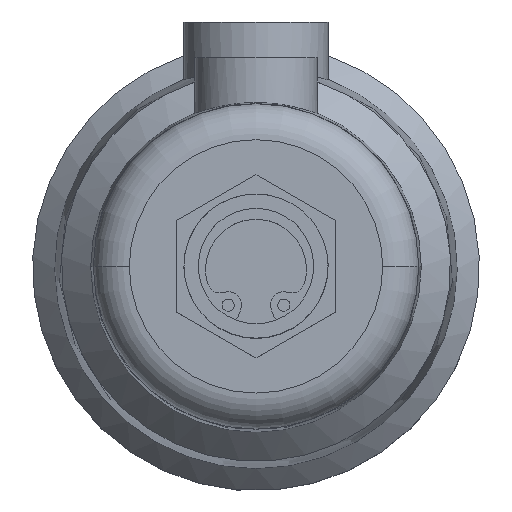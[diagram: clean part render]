
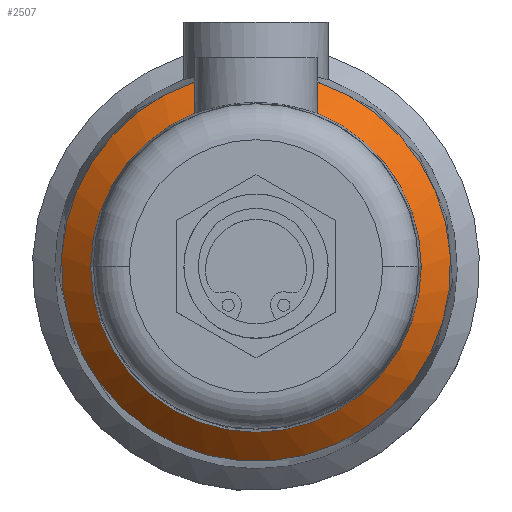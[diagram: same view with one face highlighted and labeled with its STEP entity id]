
A CAD part, top view. The second image highlights one B-rep face of the part: STEP entity #2507.
In plain terms, the highlighted conical face has half-angle 45 degrees and reference radius 24.967 mm.
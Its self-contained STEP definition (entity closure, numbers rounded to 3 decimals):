
#130=CARTESIAN_POINT('',(-8.5,25.627,114.5));
#132=CARTESIAN_POINT('',(8.5,25.627,114.5));
#198=CARTESIAN_POINT('',(8.5,21.301,118.566));
#204=CARTESIAN_POINT('',(0.,0.,118.566));
#205=DIRECTION('',(0.,0.,-1.));
#206=DIRECTION('',(0.371,0.929,0.));
#207=AXIS2_PLACEMENT_3D('',#204,#205,#206);
#214=CARTESIAN_POINT('',(0.,0.,118.566));
#215=DIRECTION('',(0.,0.,-1.));
#216=DIRECTION('',(-1.,0.,0.));
#217=AXIS2_PLACEMENT_3D('',#214,#215,#216);
#223=CARTESIAN_POINT('',(-8.5,21.301,118.566));
#225=CARTESIAN_POINT('',(0.,0.,114.5));
#226=DIRECTION('',(0.,0.,-1.));
#227=DIRECTION('',(0.315,0.949,0.));
#228=AXIS2_PLACEMENT_3D('',#225,#226,#227);
#230=CARTESIAN_POINT('',(-8.5,25.627,114.5));
#231=CARTESIAN_POINT('',(-8.5,25.127,114.975));
#232=CARTESIAN_POINT('',(-8.5,24.139,115.91));
#233=CARTESIAN_POINT('',(-8.5,22.697,117.265));
#234=CARTESIAN_POINT('',(-8.5,21.762,118.137));
#235=CARTESIAN_POINT('',(-8.5,21.301,118.566));
#237=CARTESIAN_POINT('',(8.5,21.301,118.566));
#238=CARTESIAN_POINT('',(8.5,21.761,118.138));
#239=CARTESIAN_POINT('',(8.5,22.695,117.267));
#240=CARTESIAN_POINT('',(8.5,24.137,115.911));
#241=CARTESIAN_POINT('',(8.5,25.126,114.976));
#242=CARTESIAN_POINT('',(8.5,25.627,114.5));
#244=CARTESIAN_POINT('',(0.,0.,118.566));
#245=DIRECTION('',(0.,0.,-1.));
#246=DIRECTION('',(1.,0.,0.));
#247=AXIS2_PLACEMENT_3D('',#244,#245,#246);
#2042=CARTESIAN_POINT('',(22.934,0.,118.566));
#2043=CARTESIAN_POINT('',(-22.934,0.,118.566));
#2044=VERTEX_POINT('',#2042);
#2045=VERTEX_POINT('',#2043);
#2164=VERTEX_POINT('',#132);
#2167=VERTEX_POINT('',#130);
#2170=VERTEX_POINT('',#198);
#2171=VERTEX_POINT('',#223);
#2493=CARTESIAN_POINT('',(0.,0.,116.533));
#2494=DIRECTION('',(0.,0.,-1.));
#2495=DIRECTION('',(1.,0.,0.));
#2496=AXIS2_PLACEMENT_3D('',#2493,#2494,#2495);
#2497=CONICAL_SURFACE('',#2496,24.967,45.);
#2498=ORIENTED_EDGE('',*,*,#2422,.T.);
#2499=ORIENTED_EDGE('',*,*,#2454,.T.);
#2500=ORIENTED_EDGE('',*,*,#2487,.F.);
#2502=ORIENTED_EDGE('',*,*,#2501,.F.);
#2503=ORIENTED_EDGE('',*,*,#2479,.F.);
#2504=ORIENTED_EDGE('',*,*,#2400,.T.);
#2505=EDGE_LOOP('',(#2498,#2499,#2500,#2502,#2503,#2504));
#2506=FACE_OUTER_BOUND('',#2505,.F.);
#2507=ADVANCED_FACE('',(#2506),#2497,.T.);
#208=CIRCLE('',#207,22.934);
#218=CIRCLE('',#217,22.934);
#229=CIRCLE('',#228,27.);
#236=B_SPLINE_CURVE_WITH_KNOTS('',3,(#230,#231,#232,#233,#234,#235),
.UNSPECIFIED.,.F.,.F.,(4,1,1,4),(0.,0.333,0.667,1.),
.UNSPECIFIED.);
#243=B_SPLINE_CURVE_WITH_KNOTS('',3,(#237,#238,#239,#240,#241,#242),
.UNSPECIFIED.,.F.,.F.,(4,1,1,4),(0.,0.333,0.667,1.),
.UNSPECIFIED.);
#248=CIRCLE('',#247,22.934);
#2400=EDGE_CURVE('',#2170,#2164,#243,.T.);
#2422=EDGE_CURVE('',#2164,#2167,#229,.T.);
#2454=EDGE_CURVE('',#2167,#2171,#236,.T.);
#2479=EDGE_CURVE('',#2170,#2044,#208,.T.);
#2487=EDGE_CURVE('',#2045,#2171,#218,.T.);
#2501=EDGE_CURVE('',#2044,#2045,#248,.T.);
